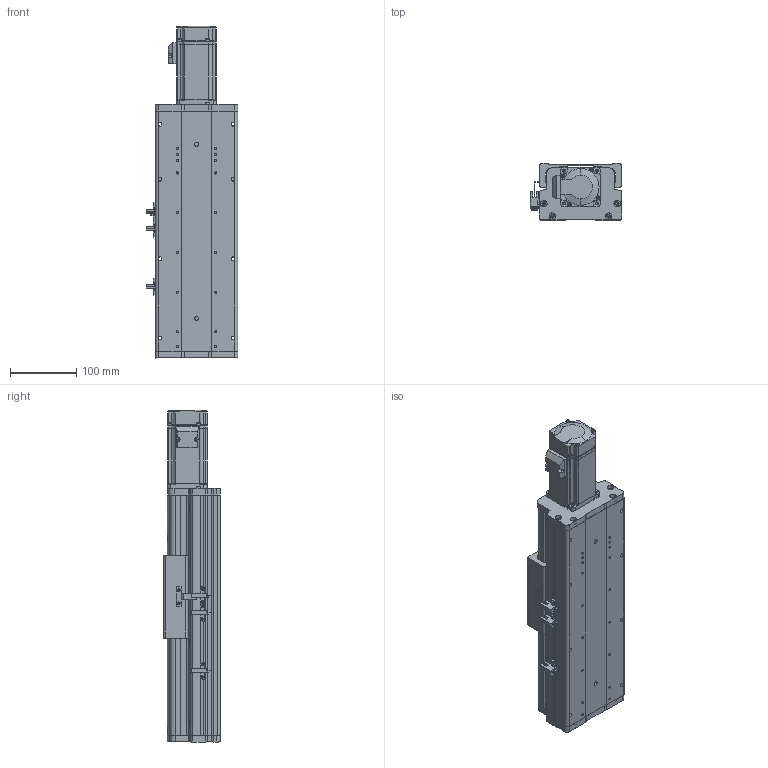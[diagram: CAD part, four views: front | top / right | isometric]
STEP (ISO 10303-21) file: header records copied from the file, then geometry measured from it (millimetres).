
FILE_DESCRIPTION (( 'STEP AP214' ), '1' );
FILE_NAME ('KSD125S-S100-MN-CM.STEP', '2017-08-07T06:04:55', ( '微软用户' ), ( '微软中国' ), 'SwSTEP 2.0', 'SolidWorks 2014', '' );
FILE_SCHEMA (( 'AUTOMOTIVE_DESIGN' ));
Length unit declared in the file: millimetre
Products named in the file (13): CS-34X32-10X14; 125-帣傷啣1; KSD125S-S100-MN-CM; KSD125S-100行程丝杆底板-直连不带电机座; 125宽模组 - 直连不带电机座电机安装板; MHMD042G1CA_2_03; 傍杶; 拸萇儂釱滅袉菜; 覜茼え68遵圉猾敕; U倰嫖萇假蚾璃; U倰嫖萇EEㄜSX672; KSD125S-100行程丝杆防尘盖-直连不带电机座; KSD125-賑雄釱1
Assembly tree (16 placements, depth 2):
  KSD125S-S100-MN-CM
    125-帣傷啣1
    CS-34X32-10X14
    KSD125-賑雄釱1
    U倰嫖萇EEㄜSX672  x3
    U倰嫖萇假蚾璃  x3
    覜茼え68遵圉猾敕
    拸萇儂釱滅袉菜
    傍杶
    MHMD042G1CA_2_03
    125宽模组 - 直连不带电机座电机安装板
    KSD125S-100行程丝杆底板-直连不带电机座
    KSD125S-100行程丝杆防尘盖-直连不带电机座
Bounding box: 138.7 x 86 x 501.5 mm (x, y, z)
Volume: 1585368 mm3; surface area: 541219 mm2
Topology: 15 solids, 18 shells, 1402 faces, 4043 edges, 2657 vertices
Faces by surface type: cylinder 672, plane 613, cone 95, bspline 22
Entity records: 49018 total; most frequent: CARTESIAN_POINT 10513, DIRECTION 6909, ORIENTED_EDGE 6594, EDGE_CURVE 3375, AXIS2_PLACEMENT_3D 2515, VERTEX_POINT 2249, LINE 1879, VECTOR 1879
